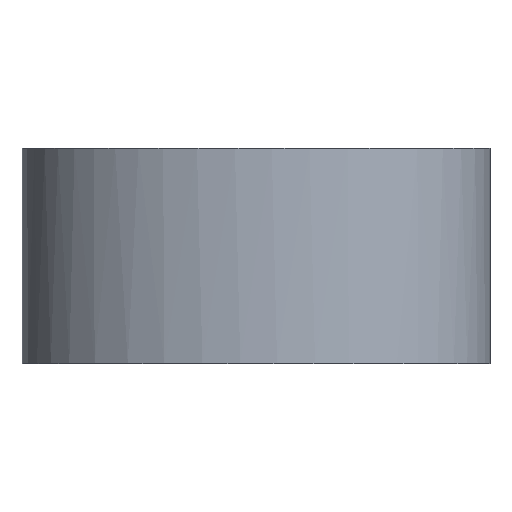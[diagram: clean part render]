
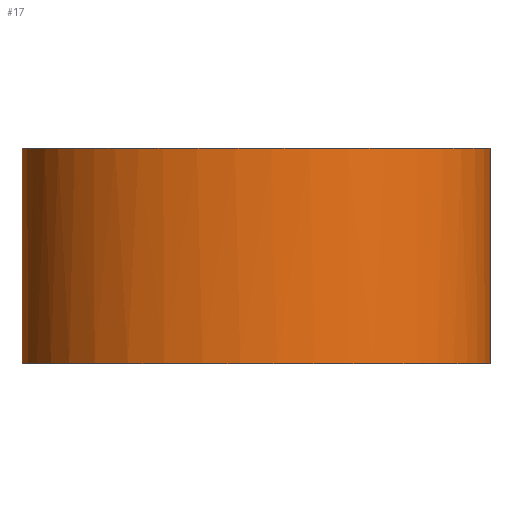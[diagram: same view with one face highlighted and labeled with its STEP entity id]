
A CAD part, front view. The second image highlights one B-rep face of the part: STEP entity #17.
In plain terms, the highlighted free-form (B-spline) face has degree [2, 1] with [5, 2] control points.
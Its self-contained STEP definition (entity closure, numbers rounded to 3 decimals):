
#17 = ADVANCED_FACE('',(#18),#32,.F.);
#18 = FACE_BOUND('',#19,.F.);
#19 = EDGE_LOOP('',(#20,#65,#97,#118));
#20 = ORIENTED_EDGE('',*,*,#21,.T.);
#21 = EDGE_CURVE('',#22,#24,#26,.T.);
#22 = VERTEX_POINT('',#23);
#23 = CARTESIAN_POINT('',(44.6,-51.,-192.5));
#24 = VERTEX_POINT('',#25);
#25 = CARTESIAN_POINT('',(44.6,-51.,-233.5));
#26 = SURFACE_CURVE('',#27,(#31,#48),.PCURVE_S1.);
#27 = LINE('',#28,#29);
#28 = CARTESIAN_POINT('',(44.6,-51.,-233.5));
#29 = VECTOR('',#30,1.);
#30 = DIRECTION('',(-0.,-0.,-1.));
#31 = PCURVE('',#32,#43);
#32 = ( BOUNDED_SURFACE() B_SPLINE_SURFACE(2,1,(
    (#33,#34)
    ,(#35,#36)
    ,(#37,#38)
    ,(#39,#40)
,(#41,#42
    )),.UNSPECIFIED.,.F.,.F.,.F.) B_SPLINE_SURFACE_WITH_KNOTS((3,2,3),(2
    ,2),(3.142,4.712,6.283),(0.,1.),
.PIECEWISE_BEZIER_KNOTS.) GEOMETRIC_REPRESENTATION_ITEM() 
RATIONAL_B_SPLINE_SURFACE((
    (1.,1.)
    ,(0.707,0.707)
    ,(1.,1.)
    ,(0.707,0.707)
,(1.,1.))) REPRESENTATION_ITEM('') SURFACE() );
#33 = CARTESIAN_POINT('',(-44.6,-51.,-192.5));
#34 = CARTESIAN_POINT('',(-44.6,-51.,-233.5));
#35 = CARTESIAN_POINT('',(-44.6,-84.6,-192.5));
#36 = CARTESIAN_POINT('',(-44.6,-84.6,-233.5));
#37 = CARTESIAN_POINT('',(0.,-84.6,-192.5));
#38 = CARTESIAN_POINT('',(0.,-84.6,-233.5));
#39 = CARTESIAN_POINT('',(44.6,-84.6,-192.5));
#40 = CARTESIAN_POINT('',(44.6,-84.6,-233.5));
#41 = CARTESIAN_POINT('',(44.6,-51.,-192.5));
#42 = CARTESIAN_POINT('',(44.6,-51.,-233.5));
#43 = DEFINITIONAL_REPRESENTATION('',(#44),#47);
#44 = B_SPLINE_CURVE_WITH_KNOTS('',1,(#45,#46),.UNSPECIFIED.,.F.,.F.,(2,
    2),(-41.,-0.),.PIECEWISE_BEZIER_KNOTS.);
#45 = CARTESIAN_POINT('',(6.283,0.));
#46 = CARTESIAN_POINT('',(6.283,1.));
#47 = ( GEOMETRIC_REPRESENTATION_CONTEXT(2) 
PARAMETRIC_REPRESENTATION_CONTEXT() REPRESENTATION_CONTEXT('2D SPACE',''
  ) );
#48 = PCURVE('',#49,#60);
#49 = ( BOUNDED_SURFACE() B_SPLINE_SURFACE(2,1,(
    (#50,#51)
    ,(#52,#53)
    ,(#54,#55)
    ,(#56,#57)
,(#58,#59
    )),.UNSPECIFIED.,.F.,.F.,.F.) B_SPLINE_SURFACE_WITH_KNOTS((3,2,3),(2
    ,2),(0.,1.571,3.142),(0.,1.),
.PIECEWISE_BEZIER_KNOTS.) GEOMETRIC_REPRESENTATION_ITEM() 
RATIONAL_B_SPLINE_SURFACE((
    (1.,1.)
    ,(0.707,0.707)
    ,(1.,1.)
    ,(0.707,0.707)
,(1.,1.))) REPRESENTATION_ITEM('') SURFACE() );
#50 = CARTESIAN_POINT('',(44.6,-51.,-192.5));
#51 = CARTESIAN_POINT('',(44.6,-51.,-233.5));
#52 = CARTESIAN_POINT('',(44.6,-17.4,-192.5));
#53 = CARTESIAN_POINT('',(44.6,-17.4,-233.5));
#54 = CARTESIAN_POINT('',(0.,-17.4,-192.5));
#55 = CARTESIAN_POINT('',(0.,-17.4,-233.5));
#56 = CARTESIAN_POINT('',(-44.6,-17.4,-192.5));
#57 = CARTESIAN_POINT('',(-44.6,-17.4,-233.5));
#58 = CARTESIAN_POINT('',(-44.6,-51.,-192.5));
#59 = CARTESIAN_POINT('',(-44.6,-51.,-233.5));
#60 = DEFINITIONAL_REPRESENTATION('',(#61),#64);
#61 = B_SPLINE_CURVE_WITH_KNOTS('',1,(#62,#63),.UNSPECIFIED.,.F.,.F.,(2,
    2),(-41.,-0.),.PIECEWISE_BEZIER_KNOTS.);
#62 = CARTESIAN_POINT('',(0.,0.));
#63 = CARTESIAN_POINT('',(0.,1.));
#64 = ( GEOMETRIC_REPRESENTATION_CONTEXT(2) 
PARAMETRIC_REPRESENTATION_CONTEXT() REPRESENTATION_CONTEXT('2D SPACE',''
  ) );
#65 = ORIENTED_EDGE('',*,*,#66,.T.);
#66 = EDGE_CURVE('',#24,#67,#69,.T.);
#67 = VERTEX_POINT('',#68);
#68 = CARTESIAN_POINT('',(-44.6,-51.,-233.5));
#69 = SURFACE_CURVE('',#70,(#76,#83),.PCURVE_S1.);
#70 = ( BOUNDED_CURVE() B_SPLINE_CURVE(2,(#71,#72,#73,#74,#75),
.UNSPECIFIED.,.F.,.F.) B_SPLINE_CURVE_WITH_KNOTS((3,2,3),(0.,
1.571,3.142),.PIECEWISE_BEZIER_KNOTS.) CURVE() 
GEOMETRIC_REPRESENTATION_ITEM() RATIONAL_B_SPLINE_CURVE((1.,
0.707,1.,0.707,1.)) REPRESENTATION_ITEM('') );
#71 = CARTESIAN_POINT('',(44.6,-51.,-233.5));
#72 = CARTESIAN_POINT('',(44.6,-84.6,-233.5));
#73 = CARTESIAN_POINT('',(0.,-84.6,-233.5));
#74 = CARTESIAN_POINT('',(-44.6,-84.6,-233.5));
#75 = CARTESIAN_POINT('',(-44.6,-51.,-233.5));
#76 = PCURVE('',#32,#77);
#77 = DEFINITIONAL_REPRESENTATION('',(#78),#82);
#78 = LINE('',#79,#80);
#79 = CARTESIAN_POINT('',(6.283,1.));
#80 = VECTOR('',#81,1.);
#81 = DIRECTION('',(-1.,0.));
#82 = ( GEOMETRIC_REPRESENTATION_CONTEXT(2) 
PARAMETRIC_REPRESENTATION_CONTEXT() REPRESENTATION_CONTEXT('2D SPACE',''
  ) );
#83 = PCURVE('',#84,#89);
#84 = PLANE('',#85);
#85 = AXIS2_PLACEMENT_3D('',#86,#87,#88);
#86 = CARTESIAN_POINT('',(1.612,-51.,-233.5));
#87 = DIRECTION('',(0.,0.,1.));
#88 = DIRECTION('',(1.,0.,-0.));
#89 = DEFINITIONAL_REPRESENTATION('',(#90),#96);
#90 = ( BOUNDED_CURVE() B_SPLINE_CURVE(2,(#91,#92,#93,#94,#95),
.UNSPECIFIED.,.F.,.F.) B_SPLINE_CURVE_WITH_KNOTS((3,2,3),(0.,
1.571,3.142),.PIECEWISE_BEZIER_KNOTS.) CURVE() 
GEOMETRIC_REPRESENTATION_ITEM() RATIONAL_B_SPLINE_CURVE((1.,
0.707,1.,0.707,1.)) REPRESENTATION_ITEM('') );
#91 = CARTESIAN_POINT('',(42.988,0.));
#92 = CARTESIAN_POINT('',(42.988,-33.6));
#93 = CARTESIAN_POINT('',(-1.612,-33.6));
#94 = CARTESIAN_POINT('',(-46.212,-33.6));
#95 = CARTESIAN_POINT('',(-46.212,0.));
#96 = ( GEOMETRIC_REPRESENTATION_CONTEXT(2) 
PARAMETRIC_REPRESENTATION_CONTEXT() REPRESENTATION_CONTEXT('2D SPACE',''
  ) );
#97 = ORIENTED_EDGE('',*,*,#98,.F.);
#98 = EDGE_CURVE('',#99,#67,#101,.T.);
#99 = VERTEX_POINT('',#100);
#100 = CARTESIAN_POINT('',(-44.6,-51.,-192.5));
#101 = SURFACE_CURVE('',#102,(#106,#112),.PCURVE_S1.);
#102 = LINE('',#103,#104);
#103 = CARTESIAN_POINT('',(-44.6,-51.,-233.5));
#104 = VECTOR('',#105,1.);
#105 = DIRECTION('',(-0.,-0.,-1.));
#106 = PCURVE('',#32,#107);
#107 = DEFINITIONAL_REPRESENTATION('',(#108),#111);
#108 = B_SPLINE_CURVE_WITH_KNOTS('',1,(#109,#110),.UNSPECIFIED.,.F.,.F.,
  (2,2),(-41.,-0.),.PIECEWISE_BEZIER_KNOTS.);
#109 = CARTESIAN_POINT('',(3.142,0.));
#110 = CARTESIAN_POINT('',(3.142,1.));
#111 = ( GEOMETRIC_REPRESENTATION_CONTEXT(2) 
PARAMETRIC_REPRESENTATION_CONTEXT() REPRESENTATION_CONTEXT('2D SPACE',''
  ) );
#112 = PCURVE('',#49,#113);
#113 = DEFINITIONAL_REPRESENTATION('',(#114),#117);
#114 = B_SPLINE_CURVE_WITH_KNOTS('',1,(#115,#116),.UNSPECIFIED.,.F.,.F.,
  (2,2),(-41.,-0.),.PIECEWISE_BEZIER_KNOTS.);
#115 = CARTESIAN_POINT('',(3.142,0.));
#116 = CARTESIAN_POINT('',(3.142,1.));
#117 = ( GEOMETRIC_REPRESENTATION_CONTEXT(2) 
PARAMETRIC_REPRESENTATION_CONTEXT() REPRESENTATION_CONTEXT('2D SPACE',''
  ) );
#118 = ORIENTED_EDGE('',*,*,#119,.T.);
#119 = EDGE_CURVE('',#99,#22,#120,.T.);
#120 = SURFACE_CURVE('',#121,(#127,#134),.PCURVE_S1.);
#121 = ( BOUNDED_CURVE() B_SPLINE_CURVE(2,(#122,#123,#124,#125,#126),
.UNSPECIFIED.,.F.,.F.) B_SPLINE_CURVE_WITH_KNOTS((3,2,3),(3.142,
4.712,6.283),.PIECEWISE_BEZIER_KNOTS.) CURVE() 
GEOMETRIC_REPRESENTATION_ITEM() RATIONAL_B_SPLINE_CURVE((1.,
0.707,1.,0.707,1.)) REPRESENTATION_ITEM('') );
#122 = CARTESIAN_POINT('',(-44.6,-51.,-192.5));
#123 = CARTESIAN_POINT('',(-44.6,-84.6,-192.5));
#124 = CARTESIAN_POINT('',(0.,-84.6,-192.5));
#125 = CARTESIAN_POINT('',(44.6,-84.6,-192.5));
#126 = CARTESIAN_POINT('',(44.6,-51.,-192.5));
#127 = PCURVE('',#32,#128);
#128 = DEFINITIONAL_REPRESENTATION('',(#129),#133);
#129 = LINE('',#130,#131);
#130 = CARTESIAN_POINT('',(0.,0.));
#131 = VECTOR('',#132,1.);
#132 = DIRECTION('',(1.,0.));
#133 = ( GEOMETRIC_REPRESENTATION_CONTEXT(2) 
PARAMETRIC_REPRESENTATION_CONTEXT() REPRESENTATION_CONTEXT('2D SPACE',''
  ) );
#134 = PCURVE('',#135,#140);
#135 = PLANE('',#136);
#136 = AXIS2_PLACEMENT_3D('',#137,#138,#139);
#137 = CARTESIAN_POINT('',(1.612,-51.,-192.5));
#138 = DIRECTION('',(0.,0.,1.));
#139 = DIRECTION('',(1.,0.,-0.));
#140 = DEFINITIONAL_REPRESENTATION('',(#141),#147);
#141 = ( BOUNDED_CURVE() B_SPLINE_CURVE(2,(#142,#143,#144,#145,#146),
.UNSPECIFIED.,.F.,.F.) B_SPLINE_CURVE_WITH_KNOTS((3,2,3),(3.142,
4.712,6.283),.PIECEWISE_BEZIER_KNOTS.) CURVE() 
GEOMETRIC_REPRESENTATION_ITEM() RATIONAL_B_SPLINE_CURVE((1.,
0.707,1.,0.707,1.)) REPRESENTATION_ITEM('') );
#142 = CARTESIAN_POINT('',(-46.212,0.));
#143 = CARTESIAN_POINT('',(-46.212,-33.6));
#144 = CARTESIAN_POINT('',(-1.612,-33.6));
#145 = CARTESIAN_POINT('',(42.988,-33.6));
#146 = CARTESIAN_POINT('',(42.988,0.));
#147 = ( GEOMETRIC_REPRESENTATION_CONTEXT(2) 
PARAMETRIC_REPRESENTATION_CONTEXT() REPRESENTATION_CONTEXT('2D SPACE',''
  ) );
